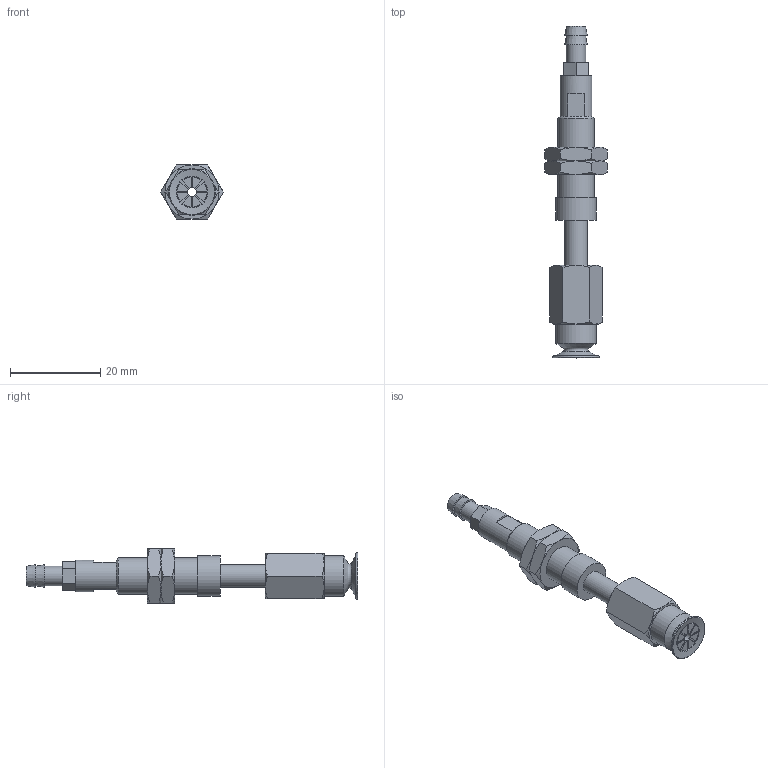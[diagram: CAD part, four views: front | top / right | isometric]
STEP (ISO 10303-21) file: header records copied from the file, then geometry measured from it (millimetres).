
FILE_DESCRIPTION(('STEP AP203'),'1');
FILE_NAME('-T.stp','2025-08-26T08:43:11',(' '),(' '),'Spatial InterOp 3D',' ',' ');
FILE_SCHEMA(('CONFIG_CONTROL_DESIGN'));
Length unit declared in the file: millimetre
Products named in the file (7): BNABPATS-10B-10-※-T; ADAPTER; NAPATS-10A-10--M; NAPATS-10A-10--F; Nut-10A-S; BPAG-10B-※_3D; T
Assembly tree (7 placements, depth 2):
  BNABPATS-10B-10-※-T
    ADAPTER
    NAPATS-10A-10--M
    NAPATS-10A-10--F
    Nut-10A-S  x2
    BPAG-10B-※_3D
    T
Bounding box: 13.86 x 73.5 x 12 mm (x, y, z)
Volume: 3697.3 mm3; surface area: 4523.2 mm2
Topology: 7 solids, 7 shells, 165 faces, 369 edges, 229 vertices
Faces by surface type: plane 77, cone 49, cylinder 28, torus 11
Full cylindrical faces by diameter (mm): 2 x3, 3 x1, 4 x2, 4.134 x1, 4.3 x1, 5 x3, 6 x2, 7 x2, 7.188 x2, 8 x1, 9 x2
Entity records: 4244 total; most frequent: CARTESIAN_POINT 902, DIRECTION 642, ORIENTED_EDGE 542, EDGE_CURVE 271, AXIS2_PLACEMENT_3D 269, EDGE_LOOP 206, VERTEX_POINT 193, FACE_OUTER_BOUND 172
